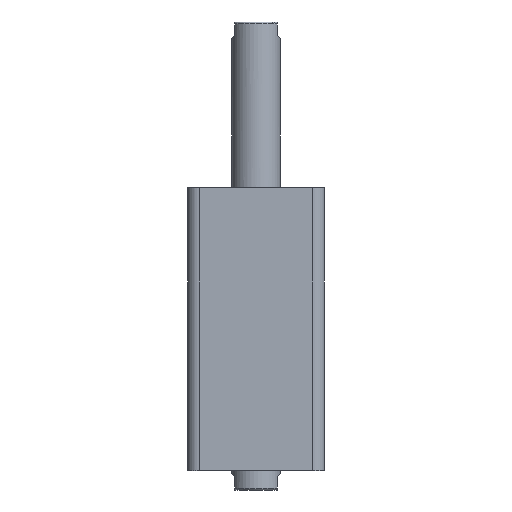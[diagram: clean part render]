
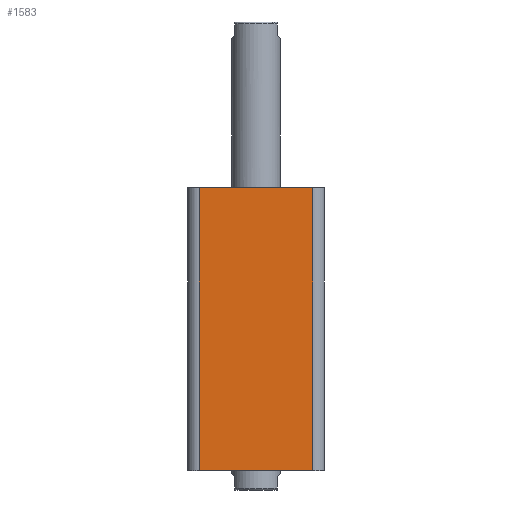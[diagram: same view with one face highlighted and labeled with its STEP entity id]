
A CAD part, front view. The second image highlights one B-rep face of the part: STEP entity #1583.
In plain terms, the highlighted planar face has unit normal (0, -1, 0).
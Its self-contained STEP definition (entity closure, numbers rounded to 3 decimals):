
#66 = LINE ( 'NONE', #2719, #82 ) ;
#76 = LINE ( 'NONE', #2714, #78 ) ;
#77 = LINE ( 'NONE', #2723, #80 ) ;
#78 = VECTOR ( 'NONE', #2715, 1000. ) ;
#80 = VECTOR ( 'NONE', #2724, 1000. ) ;
#81 = LINE ( 'NONE', #2726, #84 ) ;
#82 = VECTOR ( 'NONE', #2725, 1000. ) ;
#84 = VECTOR ( 'NONE', #2727, 1000. ) ;
#173 = FACE_OUTER_BOUND ( 'NONE', #3153, .T. ) ;
#404 = VERTEX_POINT ( 'NONE', #506 ) ;
#506 = CARTESIAN_POINT ( 'NONE',  ( -29., -35., 145. ) ) ;
#962 = EDGE_CURVE ( 'NONE', #404, #2348, #76, .T. ) ;
#963 = EDGE_CURVE ( 'NONE', #404, #3177, #77, .T. ) ;
#964 = EDGE_CURVE ( 'NONE', #3177, #3104, #66, .T. ) ;
#965 = EDGE_CURVE ( 'NONE', #3104, #2348, #81, .T. ) ;
#1173 = CARTESIAN_POINT ( 'NONE',  ( 29., -35., 145. ) ) ;
#1232 = CARTESIAN_POINT ( 'NONE',  ( 29., -35., 0. ) ) ;
#1245 = CARTESIAN_POINT ( 'NONE',  ( -29., -35., 0. ) ) ;
#1583 = ADVANCED_FACE ( 'NONE', ( #173 ), #2902, .F. ) ;
#1858 = AXIS2_PLACEMENT_3D ( 'NONE', #2900, #2904, #2905 ) ;
#2160 = ORIENTED_EDGE ( 'NONE', *, *, #962, .F. ) ;
#2161 = ORIENTED_EDGE ( 'NONE', *, *, #963, .T. ) ;
#2162 = ORIENTED_EDGE ( 'NONE', *, *, #964, .T. ) ;
#2163 = ORIENTED_EDGE ( 'NONE', *, *, #965, .T. ) ;
#2348 = VERTEX_POINT ( 'NONE', #1173 ) ;
#2714 = CARTESIAN_POINT ( 'NONE',  ( -35., -35., 145. ) ) ;
#2715 = DIRECTION ( 'NONE',  ( 1., 0., 0. ) ) ;
#2719 = CARTESIAN_POINT ( 'NONE',  ( -35., -35., 0. ) ) ;
#2723 = CARTESIAN_POINT ( 'NONE',  ( -29., -35., 145. ) ) ;
#2724 = DIRECTION ( 'NONE',  ( 0., 0., -1. ) ) ;
#2725 = DIRECTION ( 'NONE',  ( 1., 0., 0. ) ) ;
#2726 = CARTESIAN_POINT ( 'NONE',  ( 29., -35., 145. ) ) ;
#2727 = DIRECTION ( 'NONE',  ( 0., 0., 1. ) ) ;
#2900 = CARTESIAN_POINT ( 'NONE',  ( -35., -35., 145. ) ) ;
#2902 = PLANE ( 'NONE',  #1858 ) ;
#2904 = DIRECTION ( 'NONE',  ( 0., 1., 0. ) ) ;
#2905 = DIRECTION ( 'NONE',  ( 0., 0., 1. ) ) ;
#3104 = VERTEX_POINT ( 'NONE', #1232 ) ;
#3153 = EDGE_LOOP ( 'NONE', ( #2160, #2161, #2162, #2163 ) ) ;
#3177 = VERTEX_POINT ( 'NONE', #1245 ) ;
